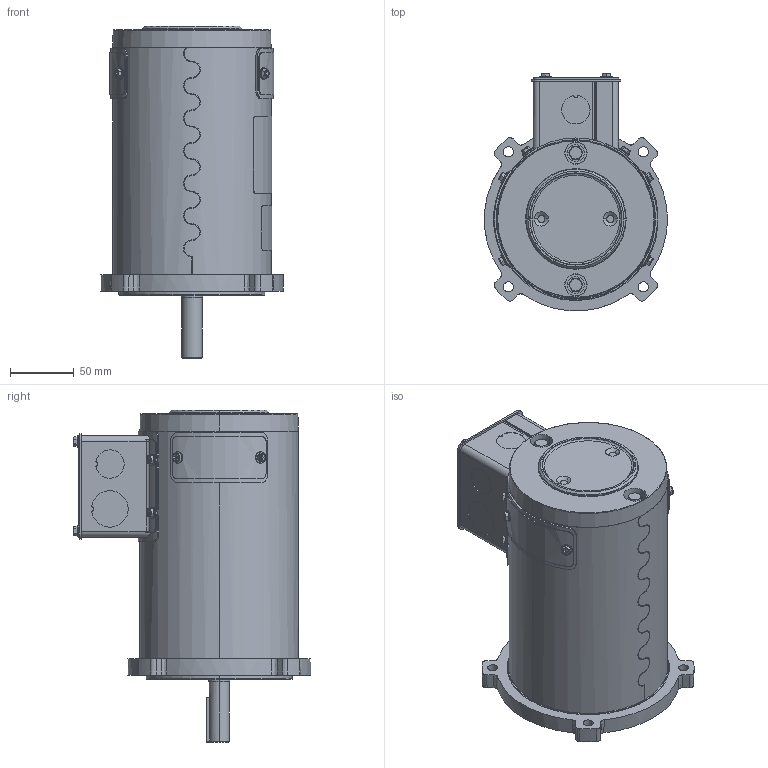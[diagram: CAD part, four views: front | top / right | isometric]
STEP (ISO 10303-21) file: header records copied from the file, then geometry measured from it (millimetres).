
FILE_DESCRIPTION (( 'STEP AP203' ), '1' );
FILE_NAME ('612-0073-DC112_Rev01.STEP', '2018-08-14T19:57:35', ( 'RBC' ), ( 'RBC' ), 'SwSTEP 2.0', 'SolidWorks 2015', '' );
FILE_SCHEMA (( 'CONFIG_CONTROL_DESIGN' ));
Length unit declared in the file: inch
Products named in the file (1): 612-0073-DC112_Rev01
Bounding box: 142.99 x 185.28 x 259.42 mm (x, y, z)
Volume: 783348.4 mm3; surface area: 386254.3 mm2
Topology: 39 solids, 39 shells, 1742 faces, 4120 edges, 2535 vertices
Faces by surface type: plane 584, cylinder 393, bspline 288, cone 277, torus 186, sphere 14
Entity records: 69032 total; most frequent: CARTESIAN_POINT 30843, ORIENTED_EDGE 8224, DIRECTION 7516, EDGE_CURVE 4112, AXIS2_PLACEMENT_3D 3091, VERTEX_POINT 2535, EDGE_LOOP 1931, ADVANCED_FACE 1742
